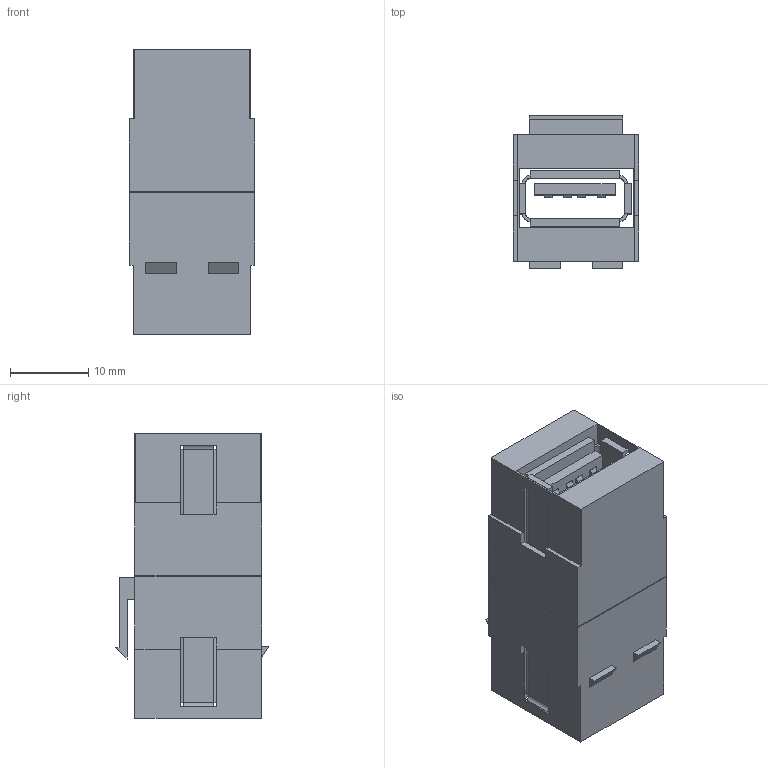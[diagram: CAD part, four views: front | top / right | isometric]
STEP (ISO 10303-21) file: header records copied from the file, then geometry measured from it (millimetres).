
FILE_DESCRIPTION(/* description */ (''),/* implementation_level */ '2;1');
FILE_NAME(/* name */ 'Z:\917\917.120.stp',/* time_stamp */ '2016-03-07T09:11:17+01:00',/* author */ ('susann.strauss'),/* organization */ (''),/* preprocessor_version */ 'ST-DEVELOPER v16.1',/* originating_system */ 'Autodesk Inventor 2016',/* authorisation */ '');
FILE_SCHEMA (('AUTOMOTIVE_DESIGN { 1 0 10303 214 3 1 1 }'));
Length unit declared in the file: millimetre
Products named in the file (1): Bauteil2
Bounding box: 16 x 19.61 x 36.4 mm (x, y, z)
Volume: 5769.1 mm3; surface area: 6404.7 mm2
Topology: 9 solids, 9 shells, 272 faces, 711 edges, 458 vertices
Faces by surface type: plane 212, cylinder 60
Entity records: 8568 total; most frequent: CARTESIAN_POINT 1442, ORIENTED_EDGE 1422, DIRECTION 1377, EDGE_CURVE 711, LINE 591, VECTOR 591, VERTEX_POINT 458, AXIS2_PLACEMENT_3D 393
